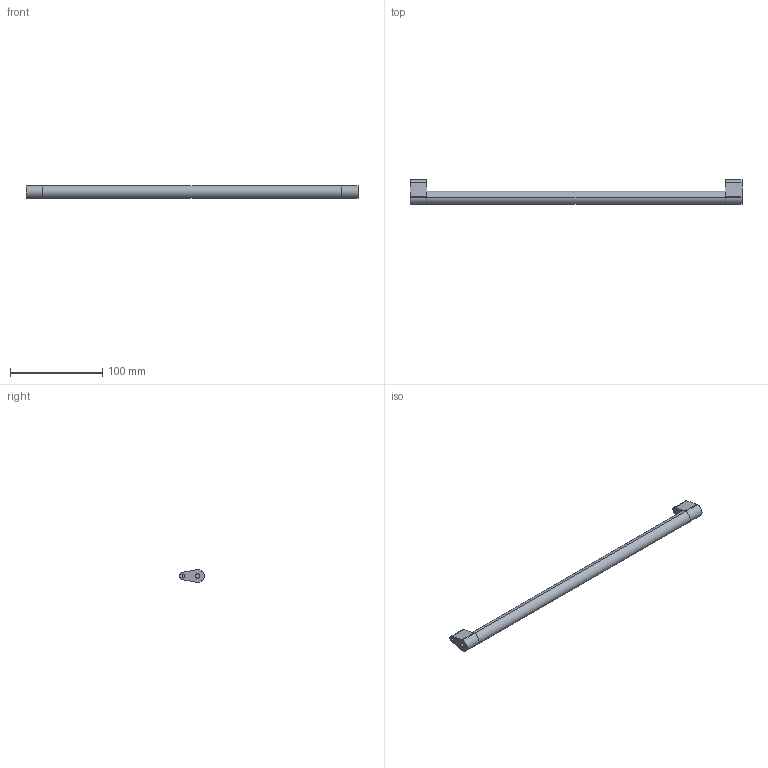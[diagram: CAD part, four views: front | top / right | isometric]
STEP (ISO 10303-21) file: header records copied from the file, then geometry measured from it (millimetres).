
FILE_DESCRIPTION (( 'STEP AP214' ), '1' );
FILE_NAME ('_Synchronisationseinheit Nova Pro KAB450_S19.step', '2010-07-08T13:58:41', ( 'grass' ), ( '' ), 'SwSTEP 2.0', 'SolidWorks 2010', '' );
FILE_SCHEMA (( 'AUTOMOTIVE_DESIGN' ));
Length unit declared in the file: millimetre
Products named in the file (1): _Synchronisationseinheit Nova Pro KAB450_S19
Bounding box: 359 x 26.5 x 14 mm (x, y, z)
Volume: 58950.6 mm3; surface area: 18636.6 mm2
Topology: 3 solids, 3 shells, 36 faces, 78 edges, 52 vertices
Faces by surface type: cylinder 18, plane 18
Entity records: 1050 total; most frequent: DIRECTION 188, CARTESIAN_POINT 167, ORIENTED_EDGE 156, EDGE_CURVE 78, AXIS2_PLACEMENT_3D 73, VERTEX_POINT 52, VECTOR 42, LINE 42
